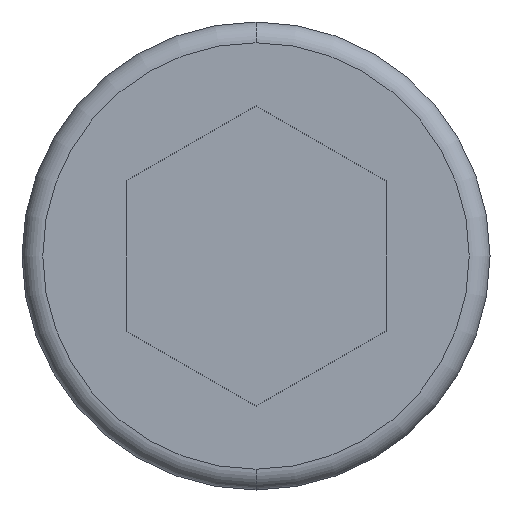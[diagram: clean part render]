
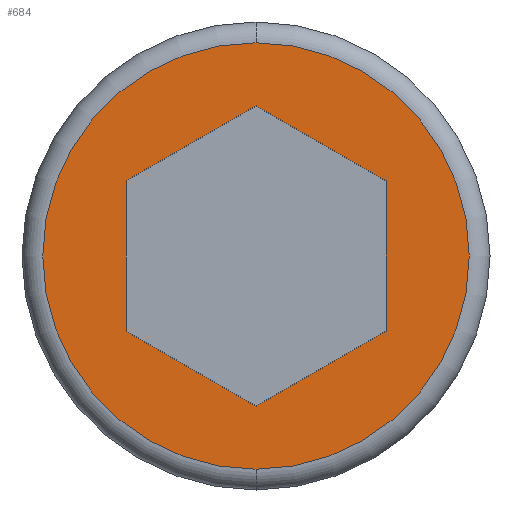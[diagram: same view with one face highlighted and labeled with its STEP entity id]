
A CAD part, front view. The second image highlights one B-rep face of the part: STEP entity #684.
In plain terms, the highlighted planar face has unit normal (0, -1, 0).
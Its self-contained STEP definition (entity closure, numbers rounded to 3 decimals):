
#6 = CARTESIAN_POINT ( 'NONE',  ( 0., -12., -8.2 ) ) ;
#10 = DIRECTION ( 'NONE',  ( -0.866, 0., -0.5 ) ) ;
#15 = CARTESIAN_POINT ( 'NONE',  ( 0., -12., 5.774 ) ) ;
#16 = EDGE_LOOP ( 'NONE', ( #731, #640, #746, #447, #257, #590 ) ) ;
#19 = EDGE_CURVE ( 'NONE', #336, #247, #527, .T. ) ;
#27 = DIRECTION ( 'NONE',  ( 0.866, 0., 0.5 ) ) ;
#34 = LINE ( 'NONE', #80, #194 ) ;
#51 = CARTESIAN_POINT ( 'NONE',  ( 5., -12., 2.887 ) ) ;
#57 = DIRECTION ( 'NONE',  ( 0.866, 0., -0.5 ) ) ;
#80 = CARTESIAN_POINT ( 'NONE',  ( 5., -12., -2.887 ) ) ;
#83 = DIRECTION ( 'NONE',  ( 0., 0., -1. ) ) ;
#95 = VERTEX_POINT ( 'NONE', #6 ) ;
#122 = CARTESIAN_POINT ( 'NONE',  ( 0., -12., 5.774 ) ) ;
#132 = CIRCLE ( 'NONE', #440, 8.2 ) ;
#133 = EDGE_LOOP ( 'NONE', ( #268, #629 ) ) ;
#136 = CARTESIAN_POINT ( 'NONE',  ( 0., -12., 0. ) ) ;
#137 = AXIS2_PLACEMENT_3D ( 'NONE', #369, #201, #83 ) ;
#144 = CARTESIAN_POINT ( 'NONE',  ( 0., -12., -5.774 ) ) ;
#147 = DIRECTION ( 'NONE',  ( 0., 0., -1. ) ) ;
#157 = CARTESIAN_POINT ( 'NONE',  ( 0., -12., -5.774 ) ) ;
#166 = CARTESIAN_POINT ( 'NONE',  ( -5., -12., 2.887 ) ) ;
#182 = EDGE_CURVE ( 'NONE', #247, #214, #728, .T. ) ;
#193 = DIRECTION ( 'NONE',  ( 0., 0., -1. ) ) ;
#194 = VECTOR ( 'NONE', #619, 1000. ) ;
#201 = DIRECTION ( 'NONE',  ( 0., -1., 0. ) ) ;
#204 = VECTOR ( 'NONE', #10, 1000. ) ;
#209 = CARTESIAN_POINT ( 'NONE',  ( 0., -12., 8.2 ) ) ;
#210 = EDGE_CURVE ( 'NONE', #95, #248, #132, .T. ) ;
#214 = VERTEX_POINT ( 'NONE', #439 ) ;
#247 = VERTEX_POINT ( 'NONE', #157 ) ;
#248 = VERTEX_POINT ( 'NONE', #209 ) ;
#257 = ORIENTED_EDGE ( 'NONE', *, *, #531, .F. ) ;
#268 = ORIENTED_EDGE ( 'NONE', *, *, #210, .T. ) ;
#271 = CARTESIAN_POINT ( 'NONE',  ( -5., -12., -2.887 ) ) ;
#300 = EDGE_CURVE ( 'NONE', #506, #653, #679, .T. ) ;
#314 = DIRECTION ( 'NONE',  ( 0., -1., 0. ) ) ;
#321 = CARTESIAN_POINT ( 'NONE',  ( 5., -12., 2.887 ) ) ;
#322 = LINE ( 'NONE', #122, #204 ) ;
#336 = VERTEX_POINT ( 'NONE', #271 ) ;
#341 = CARTESIAN_POINT ( 'NONE',  ( -5., -12., 2.887 ) ) ;
#369 = CARTESIAN_POINT ( 'NONE',  ( 0., -12., 0. ) ) ;
#416 = EDGE_CURVE ( 'NONE', #495, #336, #525, .T. ) ;
#422 = AXIS2_PLACEMENT_3D ( 'NONE', #136, #428, #193 ) ;
#428 = DIRECTION ( 'NONE',  ( 0., -1., 0. ) ) ;
#439 = CARTESIAN_POINT ( 'NONE',  ( 5., -12., -2.887 ) ) ;
#440 = AXIS2_PLACEMENT_3D ( 'NONE', #739, #314, #147 ) ;
#444 = VECTOR ( 'NONE', #57, 1000. ) ;
#447 = ORIENTED_EDGE ( 'NONE', *, *, #416, .F. ) ;
#469 = CARTESIAN_POINT ( 'NONE',  ( -5., -12., -2.887 ) ) ;
#473 = VECTOR ( 'NONE', #696, 1000. ) ;
#481 = FACE_BOUND ( 'NONE', #16, .T. ) ;
#495 = VERTEX_POINT ( 'NONE', #166 ) ;
#506 = VERTEX_POINT ( 'NONE', #51 ) ;
#515 = CIRCLE ( 'NONE', #137, 8.2 ) ;
#525 = LINE ( 'NONE', #341, #596 ) ;
#527 = LINE ( 'NONE', #469, #444 ) ;
#531 = EDGE_CURVE ( 'NONE', #653, #495, #322, .T. ) ;
#534 = DIRECTION ( 'NONE',  ( 0., 0., -1. ) ) ;
#562 = EDGE_CURVE ( 'NONE', #248, #95, #515, .T. ) ;
#590 = ORIENTED_EDGE ( 'NONE', *, *, #300, .F. ) ;
#596 = VECTOR ( 'NONE', #534, 1000. ) ;
#619 = DIRECTION ( 'NONE',  ( 0., 0., 1. ) ) ;
#626 = EDGE_CURVE ( 'NONE', #214, #506, #34, .T. ) ;
#629 = ORIENTED_EDGE ( 'NONE', *, *, #562, .T. ) ;
#640 = ORIENTED_EDGE ( 'NONE', *, *, #182, .F. ) ;
#653 = VERTEX_POINT ( 'NONE', #15 ) ;
#679 = LINE ( 'NONE', #321, #473 ) ;
#684 = ADVANCED_FACE ( 'NONE', ( #726, #481 ), #727, .T. ) ;
#696 = DIRECTION ( 'NONE',  ( -0.866, 0., 0.5 ) ) ;
#707 = VECTOR ( 'NONE', #27, 1000. ) ;
#726 = FACE_OUTER_BOUND ( 'NONE', #133, .T. ) ;
#727 = PLANE ( 'NONE',  #422 ) ;
#728 = LINE ( 'NONE', #144, #707 ) ;
#731 = ORIENTED_EDGE ( 'NONE', *, *, #626, .F. ) ;
#739 = CARTESIAN_POINT ( 'NONE',  ( 0., -12., 0. ) ) ;
#746 = ORIENTED_EDGE ( 'NONE', *, *, #19, .F. ) ;
